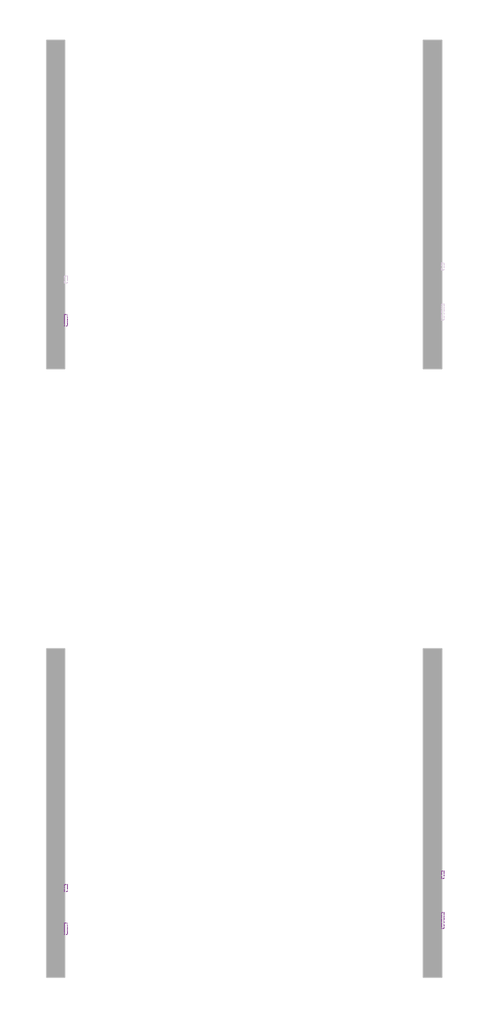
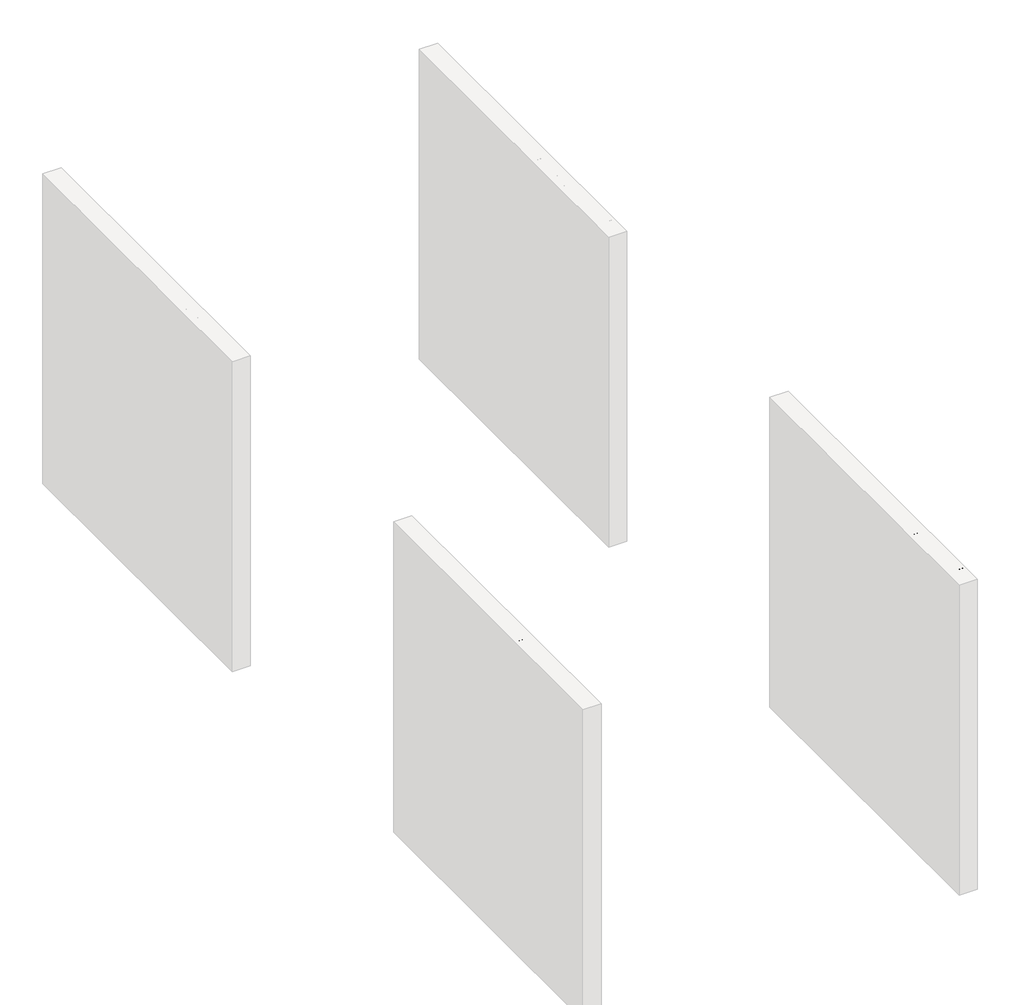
# One storey, part 5 of 7: 5 proxies.
"""IFC4 building model written with IfcOpenShell, lengths in millimetres."""

from ifc_helpers import new_model, si_unit, frame, origin, place, context, project, spatial, polyline, outline, extrude, element, save

model = new_model("IFC4")

# Units and contexts
model_context = context("Model", 3, world=origin())
ifc_project = project(units=[si_unit("LENGTHUNIT", "METRE", prefix="MILLI")], contexts=[model_context])

# Site, building, storey
site = spatial("IfcSite", under=ifc_project)
building = spatial("IfcBuilding", under=site)
storey = spatial("IfcBuildingStorey", under=building, Name="PORTOBELLO - SHOWROOM", Elevation=0.0)

# Proxies
placement = place(None, origin())
element("IfcBuildingElementProxy", 1, Name="10mm Arial", ObjectType="10mm Arial", at=placement, inside=storey, context=model_context, shape_type="SweptSolid", body=[
    extrude(outline(polyline([(999.2437115, 2593.9527041), (1002.5914377, 2616.1666452), (1012.6346161, 2632.972721), (1027.969164, 2643.5493284), (1047.1909982, 2647.0748642), (1060.367305, 2645.4193952), (1072.1824484, 2640.4529883), (1081.992635, 2632.5251313), (1089.1540711, 2621.9853121), (1093.5318669, 2609.3424342), (1094.9911321, 2595.105401), (1093.4552248, 2580.6782954), (1088.8475028, 2567.8576079), (1081.4224179, 2557.2993946), (1071.4344217, 2549.6597119), (1059.7204458, 2545.0243987), (1047.1174218, 2543.4792944), (1033.7387799, 2545.1868799), (1021.8561915, 2550.3096367), (1012.0705304, 2558.3846465), (1004.9826706, 2568.9489912), (999.2437115, 2593.9527041)]), holes=[polyline([(1011.8007503, 2593.8300768), (1014.3115449, 2578.1153842), (1021.8439287, 2566.1408253), (1033.1654971, 2558.5624562), (1047.0438454, 2556.0363331), (1061.1245288, 2558.5869816), (1072.4644913, 2566.2389271), (1079.9416928, 2578.5813681), (1082.4340934, 2595.2035029), (1078.1666622, 2615.9275219), (1065.6954626, 2629.6495204), (1047.2645746, 2634.5178254), (1033.757174, 2632.1725777), (1022.2731244, 2625.1368345), (1014.4188438, 2612.6196497), (1011.8007503, 2593.8300768)])]), frame((47110.9355471, 0.0, 0.0), z_axis=(1.0, 0.0, 0.0), x_axis=(0.0, 1.0, 0.0)), (0.0, 0.0, 1.0), 20.0),
    extrude(outline(polyline([(1154.6370663, 2545.0489242), (1154.6370663, 2606.2644882), (1143.6496573, 2606.2644882), (1143.6496573, 2618.821527), (1154.6370663, 2618.821527), (1154.6370663, 2626.2527433), (1155.9614415, 2636.7251174), (1162.3871136, 2644.2053846), (1175.0422543, 2647.0748642), (1186.4956471, 2645.7014381), (1184.6562371, 2633.9292142), (1177.4212245, 2634.5178254), (1169.5117616, 2632.4331608), (1167.194105, 2624.658588), (1167.194105, 2618.821527), (1181.3207737, 2618.821527), (1181.3207737, 2606.2644882), (1167.194105, 2606.2644882), (1167.194105, 2545.0489242), (1154.6370663, 2545.0489242)])), frame((47110.9355471, 0.0, 0.0), z_axis=(1.0, 0.0, 0.0), x_axis=(0.0, 1.0, 0.0)), (0.0, 0.0, 1.0), 20.0),
    extrude(outline(polyline([(1113.8266903, 2545.0489242), (1113.8266903, 2606.2644882), (1102.8392814, 2606.2644882), (1102.8392814, 2618.821527), (1113.8266903, 2618.821527), (1113.8266903, 2626.2527433), (1115.1510655, 2636.7251174), (1121.5767376, 2644.2053846), (1134.2318783, 2647.0748642), (1145.6852711, 2645.7014381), (1143.8458611, 2633.9292142), (1136.6108485, 2634.5178254), (1128.7013856, 2632.4331608), (1126.383729, 2624.658588), (1126.383729, 2618.821527), (1140.5103977, 2618.821527), (1140.5103977, 2606.2644882), (1126.383729, 2606.2644882), (1126.383729, 2545.0489242), (1113.8266903, 2545.0489242)])), frame((47110.9355471, 0.0, 0.0), z_axis=(1.0, 0.0, 0.0), x_axis=(0.0, 1.0, 0.0)), (0.0, 0.0, 1.0), 20.0),
    extrude(outline(polyline([(1251.0957254, 2545.0489242), (1223.7007795, 2645.5052343), (1236.6502257, 2645.5052343), (1252.5427279, 2579.4826789), (1257.4478212, 2559.1020164), (1262.696271, 2577.1282342), (1282.6109497, 2645.5052343), (1301.2748295, 2645.5052343), (1315.7448547, 2595.9392669), (1326.5115344, 2559.1020164), (1331.2694749, 2578.8940678), (1347.3091299, 2645.5052343), (1360.2585761, 2645.5052343), (1332.8391047, 2545.0489242), (1319.4236746, 2545.0489242), (1295.3396667, 2622.5493978), (1291.9796778, 2633.3651285), (1288.202756, 2620.3421059), (1266.2524636, 2545.0489242), (1251.0957254, 2545.0489242)])), frame((47110.9355471, 0.0, 0.0), z_axis=(1.0, 0.0, 0.0), x_axis=(0.0, 1.0, 0.0)), (0.0, 0.0, 1.0), 20.0),
    extrude(outline(polyline([(1371.245985, 2545.0489242), (1371.245985, 2645.5052343), (1383.8030238, 2645.5052343), (1383.8030238, 2608.569882), (1393.5948162, 2617.4358381), (1405.6552143, 2620.3911568), (1419.7573575, 2617.166058), (1428.3167452, 2608.251051), (1430.8919192, 2591.7454121), (1430.8919192, 2545.0489242), (1418.3348804, 2545.0489242), (1418.3348804, 2590.4455624), (1414.3372294, 2603.6893142), (1403.0064639, 2607.834118), (1392.7180308, 2605.0382149), (1385.8509002, 2597.4598458), (1383.8030238, 2584.2406194), (1383.8030238, 2545.0489242), (1371.245985, 2545.0489242)])), frame((47110.9355471, 0.0, 0.0), z_axis=(1.0, 0.0, 0.0), x_axis=(0.0, 1.0, 0.0)), (0.0, 0.0, 1.0), 20.0),
    extrude(outline(polyline([(47130.9355471, 1460.7148863), (47130.9355471, 1448.1578475), (47110.9355471, 1448.1578475), (47110.9355471, 1460.7148863), (47130.9355471, 1460.7148863)])), frame((0.0, 0.0, 2632.9481956), z_axis=(0.0, 0.0, 1.0), x_axis=(1.0, 0.0, 0.0)), (0.0, 0.0, 1.0), 12.5570388),
    extrude(outline(polyline([(47130.9355471, 1460.7148863), (47130.9355471, 1448.1578475), (47110.9355471, 1448.1578475), (47110.9355471, 1460.7148863), (47130.9355471, 1460.7148863)])), frame((0.0, 0.0, 2545.0489242), z_axis=(0.0, 0.0, 1.0), x_axis=(1.0, 0.0, 0.0)), (0.0, 0.0, 1.0), 73.7726028),
    extrude(outline(polyline([(1506.2341518, 2555.5212983), (1507.8037816, 2544.6810422), (1498.410528, 2543.4792944), (1487.889103, 2545.563959), (1482.6406532, 2551.033138), (1481.1200743, 2565.2824339), (1481.1200743, 2606.2644882), (1471.7022952, 2606.2644882), (1471.7022952, 2618.821527), (1481.1200743, 2618.821527), (1481.1200743, 2636.7496429), (1493.677113, 2644.1318082), (1493.677113, 2618.821527), (1506.2341518, 2618.821527), (1506.2341518, 2606.2644882), (1493.677113, 2606.2644882), (1493.677113, 2565.6503159), (1494.3393006, 2559.1755928), (1496.4852789, 2556.8824617), (1500.7649728, 2556.0363331), (1506.2341518, 2555.5212983)])), frame((47110.9355471, 0.0, 0.0), z_axis=(1.0, 0.0, 0.0), x_axis=(0.0, 1.0, 0.0)), (0.0, 0.0, 1.0), 20.0),
    extrude(outline(polyline([(1570.4418227, 2567.023742), (1582.7536068, 2565.4541122), (1578.3175631, 2556.1773546), (1571.2389003, 2549.2427789), (1561.6770342, 2544.9201655), (1549.79138, 2543.4792944), (1535.0577061, 2545.9655635), (1523.7208093, 2553.424371), (1516.4919281, 2565.3713387), (1514.082301, 2581.3220889), (1516.5164536, 2597.8093337), (1523.8189112, 2610.1395119), (1535.0025238, 2617.8282456), (1549.0801415, 2620.3911568), (1562.7193665, 2617.8343769), (1573.6178706, 2610.1640373), (1580.7639783, 2597.8583846), (1583.1460143, 2581.3956653), (1583.0724379, 2578.011151), (1526.6393398, 2578.011151), (1528.8129092, 2568.611766), (1533.8620896, 2561.7017158), (1541.1492188, 2557.4526788), (1550.0366347, 2556.0363331), (1562.3484188, 2558.660558), (1570.4418227, 2567.023742)]), holes=[polyline([(1526.6393398, 2590.5681897), (1570.5889755, 2590.5681897), (1565.5612549, 2601.9480061), (1558.2404032, 2606.3625901), (1549.0310906, 2607.834118), (1533.567784, 2603.1374912), (1528.7025447, 2597.6468525), (1526.6393398, 2590.5681897)])]), frame((47110.9355471, 0.0, 0.0), z_axis=(1.0, 0.0, 0.0), x_axis=(0.0, 1.0, 0.0)), (0.0, 0.0, 1.0), 20.0),
])
element("IfcBuildingElementProxy", 2, Name="10mm Arial", ObjectType="10mm Arial", at=placement, inside=storey, context=model_context, shape_type="SweptSolid", body=[
    extrude(outline(polyline([(1070.8836529, 2576.2808052), (1083.4406916, 2573.0434437), (1077.6465502, 2558.4109373), (1068.5537336, 2547.7208997), (1056.6098314, 2541.1817972), (1042.2624336, 2539.0020964), (1027.6973723, 2540.651434), (1016.1305492, 2545.5994468), (1007.2645932, 2553.6744566), (1000.8021328, 2564.7047851), (995.5414203, 2591.5601708), (997.0282766, 2606.2080056), (1001.4888458, 2618.8570148), (1008.6901359, 2629.1055941), (1018.3991549, 2636.5521388), (1029.9138613, 2641.0862844), (1042.5322138, 2642.5976662), (1056.3001974, 2640.6417603), (1067.6830795, 2634.7740425), (1076.3252407, 2625.3562634), (1081.8710618, 2612.7501737), (1069.314023, 2609.7580668), (1059.0133272, 2625.1968479), (1042.0417044, 2630.0406275), (1022.3968059, 2624.6695503), (1011.2990324, 2610.2485761), (1008.098459, 2591.5846962), (1011.8876436, 2569.9532349), (1023.6843929, 2556.1331346), (1041.0116349, 2551.5591352), (1051.493206, 2553.1165023), (1060.2273377, 2557.7886036), (1066.8216225, 2565.5263883), (1070.8836529, 2576.2808052)])), frame((44010.9355471, 0.0, 0.0), z_axis=(1.0, 0.0, 0.0), x_axis=(0.0, 1.0, 0.0)), (0.0, 0.0, 1.0), 20.0),
    extrude(outline(polyline([(1150.7876222, 2562.5465441), (1163.0994063, 2560.9769142), (1158.6633626, 2551.7001566), (1151.5846999, 2544.765581), (1142.0228337, 2540.4429675), (1130.1371796, 2539.0020964), (1115.4035056, 2541.4883656), (1104.0666088, 2548.947173), (1096.8377276, 2560.8941408), (1094.4281006, 2576.844891), (1096.8622531, 2593.3321357), (1104.1647107, 2605.6623139), (1115.3483233, 2613.3510476), (1129.425941, 2615.9139589), (1143.065166, 2613.357179), (1153.9636701, 2605.6868394), (1161.1097779, 2593.3811867), (1163.4918138, 2576.9184674), (1163.4182374, 2573.533953), (1106.9851393, 2573.533953), (1109.1587088, 2564.134568), (1114.2078892, 2557.2245179), (1121.4950183, 2552.9754808), (1130.3824342, 2551.5591352), (1142.6942183, 2554.1833601), (1150.7876222, 2562.5465441)]), holes=[polyline([(1106.9851393, 2586.0909918), (1150.934775, 2586.0909918), (1145.9070544, 2597.4708082), (1138.5862027, 2601.8853921), (1129.3768901, 2603.3569201), (1113.9135836, 2598.6602933), (1109.0483442, 2593.1696545), (1106.9851393, 2586.0909918)])]), frame((44010.9355471, 0.0, 0.0), z_axis=(1.0, 0.0, 0.0), x_axis=(0.0, 1.0, 0.0)), (0.0, 0.0, 1.0), 20.0),
    extrude(outline(polyline([(1176.0488526, 2540.5717262), (1176.0488526, 2614.344329), (1188.6058913, 2614.344329), (1188.6058913, 2602.2042232), (1197.2388555, 2612.1492998), (1209.5261141, 2615.9139589), (1222.1076783, 2612.0757234), (1229.0238599, 2601.3213064), (1238.8217837, 2612.2657957), (1251.1948814, 2615.9139589), (1260.6341203, 2614.3964456), (1267.6146811, 2609.8439059), (1271.9280975, 2602.1337125), (1273.365903, 2591.1432378), (1273.365903, 2540.5717262), (1260.8088642, 2540.5717262), (1260.8088642, 2585.7476353), (1259.6439046, 2596.2322721), (1255.4255244, 2601.3948828), (1248.2518255, 2603.3569201), (1235.9032532, 2598.3291995), (1232.2152362, 2591.7870313), (1230.9858972, 2582.2159681), (1230.9858972, 2540.5717262), (1218.4288584, 2540.5717262), (1218.4288584, 2587.1455868), (1215.5225906, 2599.3102181), (1205.994447, 2603.3569201), (1196.6992952, 2600.6591188), (1190.5188777, 2592.7619186), (1188.6058913, 2577.7768587), (1188.6058913, 2540.5717262), (1176.0488526, 2540.5717262)])), frame((44010.9355471, 0.0, 0.0), z_axis=(1.0, 0.0, 0.0), x_axis=(0.0, 1.0, 0.0)), (0.0, 0.0, 1.0), 20.0),
    extrude(outline(polyline([(1343.8520933, 2562.5465441), (1356.1638774, 2560.9769142), (1351.7278337, 2551.7001566), (1344.6491709, 2544.765581), (1335.0873047, 2540.4429675), (1323.2016506, 2539.0020964), (1308.4679767, 2541.4883656), (1297.1310799, 2548.947173), (1289.9021987, 2560.8941408), (1287.4925716, 2576.844891), (1289.9267242, 2593.3321357), (1297.2291818, 2605.6623139), (1308.4127944, 2613.3510476), (1322.4904121, 2615.9139589), (1336.1296371, 2613.357179), (1347.0281412, 2605.6868394), (1354.1742489, 2593.3811867), (1356.5562849, 2576.9184674), (1356.4827085, 2573.533953), (1300.0496104, 2573.533953), (1302.2231798, 2564.134568), (1307.2723602, 2557.2245179), (1314.5594894, 2552.9754808), (1323.4469053, 2551.5591352), (1335.7586894, 2554.1833601), (1343.8520933, 2562.5465441)]), holes=[polyline([(1300.0496104, 2586.0909918), (1343.9992461, 2586.0909918), (1338.9715255, 2597.4708082), (1331.6506738, 2601.8853921), (1322.4413612, 2603.3569201), (1306.9780546, 2598.6602933), (1302.1128152, 2593.1696545), (1300.0496104, 2586.0909918)])]), frame((44010.9355471, 0.0, 0.0), z_axis=(1.0, 0.0, 0.0), x_axis=(0.0, 1.0, 0.0)), (0.0, 0.0, 1.0), 20.0),
    extrude(outline(polyline([(1369.1133236, 2540.5717262), (1369.1133236, 2614.344329), (1381.6703624, 2614.344329), (1381.6703624, 2604.0436331), (1391.2720825, 2612.9463774), (1404.3809442, 2615.9139589), (1416.2390072, 2613.5227259), (1424.3324111, 2607.2442065), (1428.0970702, 2598.0103684), (1428.7592578, 2585.8702626), (1428.7592578, 2540.5717262), (1416.202219, 2540.5717262), (1416.202219, 2584.1780054), (1414.7552165, 2595.2880417), (1409.6416568, 2601.1618909), (1401.0209553, 2603.3569201), (1387.3970588, 2598.4273014), (1383.1020365, 2591.2842593), (1381.6703624, 2579.7143705), (1381.6703624, 2540.5717262), (1369.1133236, 2540.5717262)])), frame((44010.9355471, 0.0, 0.0), z_axis=(1.0, 0.0, 0.0), x_axis=(0.0, 1.0, 0.0)), (0.0, 0.0, 1.0), 20.0),
    extrude(outline(polyline([(1472.7088935, 2551.0441004), (1474.2785233, 2540.2038443), (1464.8852697, 2539.0020964), (1454.3638446, 2541.086761), (1449.1153948, 2546.55594), (1447.5948159, 2560.805236), (1447.5948159, 2601.7872902), (1438.1770368, 2601.7872902), (1438.1770368, 2614.344329), (1447.5948159, 2614.344329), (1447.5948159, 2632.2724449), (1460.1518547, 2639.6546103), (1460.1518547, 2614.344329), (1472.7088935, 2614.344329), (1472.7088935, 2601.7872902), (1460.1518547, 2601.7872902), (1460.1518547, 2561.173118), (1460.8140423, 2554.6983949), (1462.9600206, 2552.4052638), (1467.2397145, 2551.5591352), (1472.7088935, 2551.0441004)])), frame((44010.9355471, 0.0, 0.0), z_axis=(1.0, 0.0, 0.0), x_axis=(0.0, 1.0, 0.0)), (0.0, 0.0, 1.0), 20.0),
])
element("IfcBuildingElementProxy", 3, Name="10mm Arial", ObjectType="10mm Arial", at=placement, inside=storey, context=model_context, shape_type="SweptSolid", body=[
    extrude(outline(polyline([(6070.8836529, 2576.2808052), (6083.4406916, 2573.0434437), (6077.6465502, 2558.4109373), (6068.5537336, 2547.7208997), (6056.6098314, 2541.1817972), (6042.2624336, 2539.0020964), (6027.6973723, 2540.651434), (6016.1305492, 2545.5994468), (6007.2645932, 2553.6744566), (6000.8021328, 2564.7047851), (5995.5414203, 2591.5601708), (5997.0282766, 2606.2080056), (6001.4888458, 2618.8570148), (6008.6901359, 2629.1055941), (6018.3991549, 2636.5521388), (6029.9138613, 2641.0862844), (6042.5322138, 2642.5976662), (6056.3001974, 2640.6417603), (6067.6830795, 2634.7740425), (6076.3252407, 2625.3562634), (6081.8710618, 2612.7501737), (6069.314023, 2609.7580668), (6059.0133272, 2625.1968479), (6042.0417044, 2630.0406275), (6022.3968059, 2624.6695503), (6011.2990324, 2610.2485761), (6008.098459, 2591.5846962), (6011.8876436, 2569.9532349), (6023.6843929, 2556.1331346), (6041.0116349, 2551.5591352), (6051.493206, 2553.1165023), (6060.2273377, 2557.7886036), (6066.8216225, 2565.5263883), (6070.8836529, 2576.2808052)])), frame((44010.9355471, 0.0, 0.0), z_axis=(1.0, 0.0, 0.0), x_axis=(0.0, 1.0, 0.0)), (0.0, 0.0, 1.0), 20.0),
    extrude(outline(polyline([(6150.7876222, 2562.5465441), (6163.0994063, 2560.9769142), (6158.6633626, 2551.7001566), (6151.5846999, 2544.765581), (6142.0228337, 2540.4429675), (6130.1371796, 2539.0020964), (6115.4035056, 2541.4883656), (6104.0666088, 2548.947173), (6096.8377276, 2560.8941408), (6094.4281006, 2576.844891), (6096.8622531, 2593.3321357), (6104.1647107, 2605.6623139), (6115.3483233, 2613.3510476), (6129.425941, 2615.9139589), (6143.065166, 2613.357179), (6153.9636701, 2605.6868394), (6161.1097779, 2593.3811867), (6163.4918138, 2576.9184674), (6163.4182374, 2573.533953), (6106.9851393, 2573.533953), (6109.1587088, 2564.134568), (6114.2078892, 2557.2245179), (6121.4950183, 2552.9754808), (6130.3824342, 2551.5591352), (6142.6942183, 2554.1833601), (6150.7876222, 2562.5465441)]), holes=[polyline([(6106.9851393, 2586.0909918), (6150.934775, 2586.0909918), (6145.9070544, 2597.4708082), (6138.5862027, 2601.8853921), (6129.3768901, 2603.3569201), (6113.9135836, 2598.6602933), (6109.0483442, 2593.1696545), (6106.9851393, 2586.0909918)])]), frame((44010.9355471, 0.0, 0.0), z_axis=(1.0, 0.0, 0.0), x_axis=(0.0, 1.0, 0.0)), (0.0, 0.0, 1.0), 20.0),
    extrude(outline(polyline([(6176.0488526, 2540.5717262), (6176.0488526, 2614.344329), (6188.6058913, 2614.344329), (6188.6058913, 2602.2042232), (6197.2388555, 2612.1492998), (6209.5261141, 2615.9139589), (6222.1076783, 2612.0757234), (6229.0238599, 2601.3213064), (6238.8217837, 2612.2657957), (6251.1948814, 2615.9139589), (6260.6341203, 2614.3964456), (6267.6146811, 2609.8439059), (6271.9280975, 2602.1337125), (6273.365903, 2591.1432378), (6273.365903, 2540.5717262), (6260.8088642, 2540.5717262), (6260.8088642, 2585.7476353), (6259.6439046, 2596.2322721), (6255.4255244, 2601.3948828), (6248.2518255, 2603.3569201), (6235.9032532, 2598.3291995), (6232.2152362, 2591.7870313), (6230.9858972, 2582.2159681), (6230.9858972, 2540.5717262), (6218.4288584, 2540.5717262), (6218.4288584, 2587.1455868), (6215.5225906, 2599.3102181), (6205.994447, 2603.3569201), (6196.6992952, 2600.6591188), (6190.5188777, 2592.7619186), (6188.6058913, 2577.7768587), (6188.6058913, 2540.5717262), (6176.0488526, 2540.5717262)])), frame((44010.9355471, 0.0, 0.0), z_axis=(1.0, 0.0, 0.0), x_axis=(0.0, 1.0, 0.0)), (0.0, 0.0, 1.0), 20.0),
    extrude(outline(polyline([(6343.8520933, 2562.5465441), (6356.1638774, 2560.9769142), (6351.7278337, 2551.7001566), (6344.6491709, 2544.765581), (6335.0873047, 2540.4429675), (6323.2016506, 2539.0020964), (6308.4679767, 2541.4883656), (6297.1310799, 2548.947173), (6289.9021987, 2560.8941408), (6287.4925716, 2576.844891), (6289.9267242, 2593.3321357), (6297.2291818, 2605.6623139), (6308.4127944, 2613.3510476), (6322.4904121, 2615.9139589), (6336.1296371, 2613.357179), (6347.0281412, 2605.6868394), (6354.1742489, 2593.3811867), (6356.5562849, 2576.9184674), (6356.4827085, 2573.533953), (6300.0496104, 2573.533953), (6302.2231798, 2564.134568), (6307.2723602, 2557.2245179), (6314.5594894, 2552.9754808), (6323.4469053, 2551.5591352), (6335.7586894, 2554.1833601), (6343.8520933, 2562.5465441)]), holes=[polyline([(6300.0496104, 2586.0909918), (6343.9992461, 2586.0909918), (6338.9715255, 2597.4708082), (6331.6506738, 2601.8853921), (6322.4413612, 2603.3569201), (6306.9780546, 2598.6602933), (6302.1128152, 2593.1696545), (6300.0496104, 2586.0909918)])]), frame((44010.9355471, 0.0, 0.0), z_axis=(1.0, 0.0, 0.0), x_axis=(0.0, 1.0, 0.0)), (0.0, 0.0, 1.0), 20.0),
    extrude(outline(polyline([(6369.1133236, 2540.5717262), (6369.1133236, 2614.344329), (6381.6703624, 2614.344329), (6381.6703624, 2604.0436331), (6391.2720825, 2612.9463774), (6404.3809442, 2615.9139589), (6416.2390072, 2613.5227259), (6424.3324111, 2607.2442065), (6428.0970702, 2598.0103684), (6428.7592578, 2585.8702626), (6428.7592578, 2540.5717262), (6416.202219, 2540.5717262), (6416.202219, 2584.1780054), (6414.7552165, 2595.2880417), (6409.6416568, 2601.1618909), (6401.0209553, 2603.3569201), (6387.3970588, 2598.4273014), (6383.1020365, 2591.2842593), (6381.6703624, 2579.7143705), (6381.6703624, 2540.5717262), (6369.1133236, 2540.5717262)])), frame((44010.9355471, 0.0, 0.0), z_axis=(1.0, 0.0, 0.0), x_axis=(0.0, 1.0, 0.0)), (0.0, 0.0, 1.0), 20.0),
    extrude(outline(polyline([(6472.7088935, 2551.0441004), (6474.2785233, 2540.2038443), (6464.8852697, 2539.0020964), (6454.3638446, 2541.086761), (6449.1153948, 2546.55594), (6447.5948159, 2560.805236), (6447.5948159, 2601.7872902), (6438.1770368, 2601.7872902), (6438.1770368, 2614.344329), (6447.5948159, 2614.344329), (6447.5948159, 2632.2724449), (6460.1518547, 2639.6546103), (6460.1518547, 2614.344329), (6472.7088935, 2614.344329), (6472.7088935, 2601.7872902), (6460.1518547, 2601.7872902), (6460.1518547, 2561.173118), (6460.8140423, 2554.6983949), (6462.9600206, 2552.4052638), (6467.2397145, 2551.5591352), (6472.7088935, 2551.0441004)])), frame((44010.9355471, 0.0, 0.0), z_axis=(1.0, 0.0, 0.0), x_axis=(0.0, 1.0, 0.0)), (0.0, 0.0, 1.0), 20.0),
])
element("IfcBuildingElementProxy", 4, Name="10mm Arial Narrow", ObjectType="10mm Arial Narrow", at=placement, inside=storey, context=model_context, shape_type="SweptSolid", body=[
    extrude(outline(polyline([(1636.0876602, 2545.0489242), (1636.0876602, 2645.767528), (1667.3845449, 2645.767528), (1683.6802464, 2643.8892072), (1695.1532325, 2634.408764), (1699.4429109, 2617.3896552), (1697.6566025, 2605.3138297), (1692.2976773, 2595.6874359), (1682.5538885, 2589.3861775), (1667.6129893, 2587.285758), (1645.8346218, 2587.285758), (1645.8346218, 2545.0489242), (1636.0876602, 2545.0489242)]), holes=[polyline([(1645.8346218, 2598.6572133), (1668.8059768, 2598.6572133), (1684.6701722, 2603.1880275), (1689.6959493, 2616.8566183), (1687.2211348, 2627.0223947), (1681.243506, 2632.8223445), (1668.5775323, 2634.3960727), (1645.8346218, 2634.3960727), (1645.8346218, 2598.6572133)])]), frame((47110.9355471, 0.0, 0.0), z_axis=(1.0, 0.0, 0.0), x_axis=(0.0, 1.0, 0.0)), (0.0, 0.0, 1.0), 20.0),
    extrude(outline(polyline([(1707.565379, 2581.6000304), (1709.5198478, 2598.1908059), (1715.3832545, 2610.1428908), (1724.2418212, 2617.3674453), (1735.1817703, 2619.7756302), (1745.9948059, 2617.3674453), (1754.8787553, 2610.1428908), (1760.8183101, 2598.3811763), (1762.7981617, 2582.3615118), (1760.8532113, 2565.1996252), (1755.0183602, 2553.05717), (1746.169312, 2545.8326155), (1735.1817703, 2543.4244306), (1724.3211421, 2545.8389611), (1715.4467112, 2553.0825527), (1709.535712, 2565.0409832), (1707.565379, 2581.6000304)]), holes=[polyline([(1717.3123406, 2581.6254131), (1718.6163775, 2569.0736617), (1722.5284881, 2560.2024036), (1728.3696848, 2554.9291451), (1735.4609802, 2553.1713922), (1742.1810533, 2554.9450093), (1747.8731266, 2560.2658604), (1751.7566817, 2569.1529827), (1753.0512, 2581.6254131), (1751.7471631, 2594.1390904), (1747.8350526, 2602.9976572), (1741.9938558, 2608.2709157), (1734.9025605, 2610.0286686), (1728.1348947, 2608.2613972), (1722.4523399, 2602.9595831), (1718.5973404, 2594.0914979), (1717.3123406, 2581.6254131)])]), frame((47110.9355471, 0.0, 0.0), z_axis=(1.0, 0.0, 0.0), x_axis=(0.0, 1.0, 0.0)), (0.0, 0.0, 1.0), 20.0),
    extrude(outline(polyline([(1834.2758805, 2553.1713922), (1835.9003741, 2543.4244306), (1828.5393874, 2543.4244306), (1820.2646231, 2545.5438871), (1815.9495619, 2551.3438369), (1814.7819571, 2565.9896621), (1814.7819571, 2608.4041749), (1806.6594891, 2608.4041749), (1806.6594891, 2611.6531622), (1805.0349955, 2606.7796813), (1797.4709471, 2608.4041749), (1791.3917875, 2606.0816567), (1787.5209238, 2599.5963737), (1785.5410722, 2584.1890671), (1785.5410722, 2545.0489242), (1775.7941105, 2545.0489242), (1775.7941105, 2618.1511366), (1785.5410722, 2618.1511366), (1785.5410722, 2608.4549404), (1791.7852195, 2617.5419515), (1798.1816631, 2619.7756302), (1806.6594891, 2618.1511366), (1814.7819571, 2618.1511366), (1814.7819571, 2634.3960727), (1824.5289188, 2642.5185407), (1824.5289188, 2618.1511366), (1834.2758805, 2618.1511366), (1834.2758805, 2608.4041749), (1824.5289188, 2608.4041749), (1824.5289188, 2563.7559834), (1825.391931, 2555.7604289), (1830.0115847, 2553.1713922), (1834.2758805, 2553.1713922)])), frame((47110.9355471, 0.0, 0.0), z_axis=(1.0, 0.0, 0.0), x_axis=(0.0, 1.0, 0.0)), (0.0, 0.0, 1.0), 20.0),
    extrude(outline(polyline([(1840.7738549, 2581.6000304), (1842.7283238, 2598.1908059), (1848.5917304, 2610.1428908), (1857.4502971, 2617.3674453), (1868.3902462, 2619.7756302), (1879.2032818, 2617.3674453), (1888.0872313, 2610.1428908), (1894.026786, 2598.3811763), (1896.0066376, 2582.3615118), (1894.0616872, 2565.1996252), (1888.2268362, 2553.05717), (1879.377788, 2545.8326155), (1868.3902462, 2543.4244306), (1857.5296181, 2545.8389611), (1848.6551872, 2553.0825527), (1842.744188, 2565.0409832), (1840.7738549, 2581.6000304)]), holes=[polyline([(1850.5208165, 2581.6254131), (1851.8248534, 2569.0736617), (1855.736964, 2560.2024036), (1861.5781607, 2554.9291451), (1868.6694561, 2553.1713922), (1875.3895293, 2554.9450093), (1881.0816026, 2560.2658604), (1884.9651576, 2569.1529827), (1886.2596759, 2581.6254131), (1884.9556391, 2594.1390904), (1881.0435285, 2602.9976572), (1875.2023317, 2608.2709157), (1868.1110364, 2610.0286686), (1861.3433706, 2608.2613972), (1855.6608159, 2602.9595831), (1851.8058164, 2594.0914979), (1850.5208165, 2581.6254131)])]), frame((47110.9355471, 0.0, 0.0), z_axis=(1.0, 0.0, 0.0), x_axis=(0.0, 1.0, 0.0)), (0.0, 0.0, 1.0), 20.0),
    extrude(outline(polyline([(1918.7495481, 2545.0489242), (1909.0025865, 2545.0489242), (1909.0025865, 2645.767528), (1918.7495481, 2645.767528), (1918.7495481, 2610.3586438), (1926.1486089, 2617.4404206), (1935.3498422, 2619.7756302), (1948.2315689, 2615.5747913), (1957.5089503, 2602.8453609), (1960.986382, 2582.1584501), (1959.054123, 2565.7041066), (1953.257346, 2553.5013675), (1944.8842236, 2545.9436648), (1935.2229286, 2543.4244306), (1925.8820904, 2546.03885), (1918.7495481, 2553.8059601), (1918.7495481, 2545.0489242)]), holes=[polyline([(1918.7495481, 2582.1584501), (1920.8309306, 2564.9108968), (1926.7197199, 2556.1792437), (1935.1721632, 2553.1713922), (1941.1148908, 2554.9608735), (1946.3532481, 2560.3293172), (1951.2394203, 2581.7523267), (1946.5309271, 2603.1880275), (1941.2862241, 2608.3185083), (1934.9691015, 2610.0286686), (1928.9914727, 2608.2391873), (1923.6991771, 2602.8707436), (1918.7495481, 2582.1584501)])]), frame((47110.9355471, 0.0, 0.0), z_axis=(1.0, 0.0, 0.0), x_axis=(0.0, 1.0, 0.0)), (0.0, 0.0, 1.0), 20.0),
    extrude(outline(polyline([(2012.9701774, 2567.7918347), (2022.7171391, 2566.1673411), (2019.0176087, 2556.2807745), (2013.1986219, 2549.1609236), (2005.4949686, 2544.8585539), (1996.141439, 2543.4244306), (1984.547885, 2545.8389611), (1975.4037627, 2553.0825527), (1969.464208, 2564.888687), (1967.4843564, 2580.9908453), (1969.4737265, 2597.657769), (1975.4418368, 2609.8382982), (1984.4558726, 2617.2912972), (1995.5830193, 2619.7756302), (2006.2659685, 2617.3769639), (2015.0134858, 2610.1809648), (2020.8483369, 2598.4414602), (2022.7932872, 2582.4122772), (2022.7171391, 2579.16329), (1977.231318, 2579.16329), (1983.2343296, 2559.7201321), (1989.1643658, 2554.8085772), (1996.2683525, 2553.1713922), (2006.4468203, 2556.8265029), (2012.9701774, 2567.7918347)]), holes=[polyline([(1977.8912686, 2588.9102516), (2012.9701774, 2588.9102516), (2008.7058817, 2603.1753361), (2002.8805492, 2608.3153355), (1995.6591674, 2610.0286686), (1983.4500826, 2604.3175582), (1977.8912686, 2588.9102516)])]), frame((47110.9355471, 0.0, 0.0), z_axis=(1.0, 0.0, 0.0), x_axis=(0.0, 1.0, 0.0)), (0.0, 0.0, 1.0), 20.0),
    extrude(outline(polyline([(47130.9355471, 2045.4600496), (47130.9355471, 2035.713088), (47110.9355471, 2035.713088), (47110.9355471, 2045.4600496), (47130.9355471, 2045.4600496)])), frame((0.0, 0.0, 2545.0489242), z_axis=(0.0, 0.0, 1.0), x_axis=(1.0, 0.0, 0.0)), (0.0, 0.0, 1.0), 100.7186038),
    extrude(outline(polyline([(47130.9355471, 2071.4519474), (47130.9355471, 2061.7049857), (47110.9355471, 2061.7049857), (47110.9355471, 2071.4519474), (47130.9355471, 2071.4519474)])), frame((0.0, 0.0, 2545.0489242), z_axis=(0.0, 0.0, 1.0), x_axis=(1.0, 0.0, 0.0)), (0.0, 0.0, 1.0), 100.7186038),
    extrude(outline(polyline([(2082.8234026, 2581.6000304), (2084.7778715, 2598.1908059), (2090.6412781, 2610.1428908), (2099.4998448, 2617.3674453), (2110.439794, 2619.7756302), (2121.2528296, 2617.3674453), (2130.136779, 2610.1428908), (2136.0763337, 2598.3811763), (2138.0561853, 2582.3615118), (2136.111235, 2565.1996252), (2130.2763839, 2553.05717), (2121.4273357, 2545.8326155), (2110.439794, 2543.4244306), (2099.5791658, 2545.8389611), (2090.7047349, 2553.0825527), (2084.7937357, 2565.0409832), (2082.8234026, 2581.6000304)]), holes=[polyline([(2092.5703643, 2581.6254131), (2093.8744011, 2569.0736617), (2097.7865117, 2560.2024036), (2103.6277085, 2554.9291451), (2110.7190038, 2553.1713922), (2117.439077, 2554.9450093), (2123.1311503, 2560.2658604), (2127.0147053, 2569.1529827), (2128.3092237, 2581.6254131), (2127.0051868, 2594.1390904), (2123.0930762, 2602.9976572), (2117.2518795, 2608.2709157), (2110.1605841, 2610.0286686), (2103.3929184, 2608.2613972), (2097.7103636, 2602.9595831), (2093.8553641, 2594.0914979), (2092.5703643, 2581.6254131)])]), frame((47110.9355471, 0.0, 0.0), z_axis=(1.0, 0.0, 0.0), x_axis=(0.0, 1.0, 0.0)), (0.0, 0.0, 1.0), 20.0),
])
element("IfcBuildingElementProxy", 5, Name="10mm Arial Narrow", ObjectType="10mm Arial Narrow", at=placement, inside=storey, context=model_context, shape_type="SweptSolid", body=[
    extrude(outline(polyline([(1527.3853689, 2540.5717262), (1527.3853689, 2641.29033), (1558.6822536, 2641.29033), (1574.9779551, 2639.4120093), (1586.4509412, 2629.9315661), (1590.7406197, 2612.9124573), (1588.9543113, 2600.8366317), (1583.5953861, 2591.210238), (1573.8515972, 2584.9089795), (1558.910698, 2582.8085601), (1537.1323306, 2582.8085601), (1537.1323306, 2540.5717262), (1527.3853689, 2540.5717262)]), holes=[polyline([(1537.1323306, 2594.1800153), (1560.1036855, 2594.1800153), (1575.9678809, 2598.7108295), (1580.993658, 2612.3794203), (1578.5188435, 2622.5451967), (1572.5412147, 2628.3451466), (1559.8752411, 2629.9188747), (1537.1323306, 2629.9188747), (1537.1323306, 2594.1800153)])]), frame((44010.9355471, 0.0, 0.0), z_axis=(1.0, 0.0, 0.0), x_axis=(0.0, 1.0, 0.0)), (0.0, 0.0, 1.0), 20.0),
    extrude(outline(polyline([(1598.8630877, 2577.1228324), (1600.8175566, 2593.713608), (1606.6809632, 2605.6656928), (1615.5395299, 2612.8902474), (1626.4794791, 2615.2984323), (1637.2925146, 2612.8902474), (1646.1764641, 2605.6656928), (1652.1160188, 2593.9039783), (1654.0958704, 2577.8843138), (1652.1509201, 2560.7224272), (1646.316069, 2548.5799721), (1637.4670208, 2541.3554175), (1626.4794791, 2538.9472326), (1615.6188509, 2541.3617632), (1606.74442, 2548.6053548), (1600.8334208, 2560.5637853), (1598.8630877, 2577.1228324)]), holes=[polyline([(1608.6100494, 2577.1482152), (1609.9140862, 2564.5964638), (1613.8261968, 2555.7252057), (1619.6673935, 2550.4519471), (1626.7586889, 2548.6941943), (1633.4787621, 2550.4678113), (1639.1708354, 2555.7886625), (1643.0543904, 2564.6757847), (1644.3489088, 2577.1482152), (1643.0448719, 2589.6618925), (1639.1327613, 2598.5204592), (1633.2915646, 2603.7937178), (1626.2002692, 2605.5514706), (1619.4326035, 2603.7841992), (1613.7500487, 2598.4823851), (1609.8950492, 2589.6142999), (1608.6100494, 2577.1482152)])]), frame((44010.9355471, 0.0, 0.0), z_axis=(1.0, 0.0, 0.0), x_axis=(0.0, 1.0, 0.0)), (0.0, 0.0, 1.0), 20.0),
    extrude(outline(polyline([(1725.5735892, 2548.6941943), (1727.1980828, 2538.9472326), (1719.8370961, 2538.9472326), (1711.5623318, 2541.0666891), (1707.2472707, 2546.866639), (1706.0796659, 2561.5124642), (1706.0796659, 2603.926977), (1697.9571978, 2603.926977), (1697.9571978, 2607.1759642), (1696.3327042, 2602.3024834), (1688.7686559, 2603.926977), (1682.6894962, 2601.6044588), (1678.8186325, 2595.1191757), (1676.8387809, 2579.7118691), (1676.8387809, 2540.5717262), (1667.0918193, 2540.5717262), (1667.0918193, 2613.6739386), (1676.8387809, 2613.6739386), (1676.8387809, 2603.9777424), (1683.0829282, 2613.0647535), (1689.4793718, 2615.2984323), (1697.9571978, 2613.6739386), (1706.0796659, 2613.6739386), (1706.0796659, 2629.9188747), (1715.8266275, 2638.0413428), (1715.8266275, 2613.6739386), (1725.5735892, 2613.6739386), (1725.5735892, 2603.926977), (1715.8266275, 2603.926977), (1715.8266275, 2559.2787855), (1716.6896398, 2551.283231), (1721.3092935, 2548.6941943), (1725.5735892, 2548.6941943)])), frame((44010.9355471, 0.0, 0.0), z_axis=(1.0, 0.0, 0.0), x_axis=(0.0, 1.0, 0.0)), (0.0, 0.0, 1.0), 20.0),
    extrude(outline(polyline([(1732.0715636, 2577.1228324), (1734.0260325, 2593.713608), (1739.8894391, 2605.6656928), (1748.7480058, 2612.8902474), (1759.687955, 2615.2984323), (1770.5009906, 2612.8902474), (1779.38494, 2605.6656928), (1785.3244948, 2593.9039783), (1787.3043463, 2577.8843138), (1785.359396, 2560.7224272), (1779.5245449, 2548.5799721), (1770.6754967, 2541.3554175), (1759.687955, 2538.9472326), (1748.8273268, 2541.3617632), (1739.9528959, 2548.6053548), (1734.0418967, 2560.5637853), (1732.0715636, 2577.1228324)]), holes=[polyline([(1741.8185253, 2577.1482152), (1743.1225621, 2564.5964638), (1747.0346727, 2555.7252057), (1752.8758695, 2550.4519471), (1759.9671648, 2548.6941943), (1766.687238, 2550.4678113), (1772.3793113, 2555.7886625), (1776.2628663, 2564.6757847), (1777.5573847, 2577.1482152), (1776.2533478, 2589.6618925), (1772.3412372, 2598.5204592), (1766.5000405, 2603.7937178), (1759.4087451, 2605.5514706), (1752.6410794, 2603.7841992), (1746.9585246, 2598.4823851), (1743.1035251, 2589.6142999), (1741.8185253, 2577.1482152)])]), frame((44010.9355471, 0.0, 0.0), z_axis=(1.0, 0.0, 0.0), x_axis=(0.0, 1.0, 0.0)), (0.0, 0.0, 1.0), 20.0),
    extrude(outline(polyline([(1810.0472569, 2540.5717262), (1800.3002952, 2540.5717262), (1800.3002952, 2641.29033), (1810.0472569, 2641.29033), (1810.0472569, 2605.8814459), (1817.4463176, 2612.9632227), (1826.6475509, 2615.2984323), (1839.5292776, 2611.0975933), (1848.8066591, 2598.3681629), (1852.2840907, 2577.6812521), (1850.3518317, 2561.2269087), (1844.5550547, 2549.0241696), (1836.1819324, 2541.4664669), (1826.5206374, 2538.9472326), (1817.1797991, 2541.561652), (1810.0472569, 2549.3287621), (1810.0472569, 2540.5717262)]), holes=[polyline([(1810.0472569, 2577.6812521), (1812.1286393, 2560.4336989), (1818.0174286, 2551.7020457), (1826.4698719, 2548.6941943), (1832.4125995, 2550.4836755), (1837.6509569, 2555.8521193), (1842.537129, 2577.2751287), (1837.8286358, 2598.7108295), (1832.5839328, 2603.8413103), (1826.2668102, 2605.5514706), (1820.2891814, 2603.7619894), (1814.9968858, 2598.3935456), (1810.0472569, 2577.6812521)])]), frame((44010.9355471, 0.0, 0.0), z_axis=(1.0, 0.0, 0.0), x_axis=(0.0, 1.0, 0.0)), (0.0, 0.0, 1.0), 20.0),
    extrude(outline(polyline([(1904.2678862, 2563.3146368), (1914.0148478, 2561.6901432), (1910.3153175, 2551.8035766), (1904.4963306, 2544.6837257), (1896.7926773, 2540.3813559), (1887.4391477, 2538.9472326), (1875.8455937, 2541.3617632), (1866.7014715, 2548.6053548), (1860.7619167, 2560.411489), (1858.7820651, 2576.5136473), (1860.7714352, 2593.180571), (1866.7395455, 2605.3611003), (1875.7535814, 2612.8140993), (1886.880728, 2615.2984323), (1897.5636772, 2612.8997659), (1906.3111945, 2605.7037669), (1912.1460456, 2593.9642623), (1914.090996, 2577.9350793), (1914.0148478, 2574.686092), (1868.5290268, 2574.686092), (1874.5320383, 2555.2429342), (1880.4620746, 2550.3313793), (1887.5660613, 2548.6941943), (1897.744529, 2552.3493049), (1904.2678862, 2563.3146368)]), holes=[polyline([(1869.1889773, 2584.4330537), (1904.2678862, 2584.4330537), (1900.0035905, 2598.6981382), (1894.1782579, 2603.8381375), (1886.9568762, 2605.5514706), (1874.7477914, 2599.8403603), (1869.1889773, 2584.4330537)])]), frame((44010.9355471, 0.0, 0.0), z_axis=(1.0, 0.0, 0.0), x_axis=(0.0, 1.0, 0.0)), (0.0, 0.0, 1.0), 20.0),
    extrude(outline(polyline([(44030.9355471, 1936.7577584), (44030.9355471, 1927.0107967), (44010.9355471, 1927.0107967), (44010.9355471, 1936.7577584), (44030.9355471, 1936.7577584)])), frame((0.0, 0.0, 2540.5717262), z_axis=(0.0, 0.0, 1.0), x_axis=(1.0, 0.0, 0.0)), (0.0, 0.0, 1.0), 100.7186038),
    extrude(outline(polyline([(44030.9355471, 1962.7496561), (44030.9355471, 1953.0026944), (44010.9355471, 1953.0026944), (44010.9355471, 1962.7496561), (44030.9355471, 1962.7496561)])), frame((0.0, 0.0, 2540.5717262), z_axis=(0.0, 0.0, 1.0), x_axis=(1.0, 0.0, 0.0)), (0.0, 0.0, 1.0), 100.7186038),
    extrude(outline(polyline([(1974.1211114, 2577.1228324), (1976.0755802, 2593.713608), (1981.9389869, 2605.6656928), (1990.7975536, 2612.8902474), (2001.7375027, 2615.2984323), (2012.5505383, 2612.8902474), (2021.4344877, 2605.6656928), (2027.3740425, 2593.9039783), (2029.3538941, 2577.8843138), (2027.4089437, 2560.7224272), (2021.5740926, 2548.5799721), (2012.7250444, 2541.3554175), (2001.7375027, 2538.9472326), (1990.8768745, 2541.3617632), (1982.0024436, 2548.6053548), (1976.0914444, 2560.5637853), (1974.1211114, 2577.1228324)]), holes=[polyline([(1983.868073, 2577.1482152), (1985.1721099, 2564.5964638), (1989.0842205, 2555.7252057), (1994.9254172, 2550.4519471), (2002.0167126, 2548.6941943), (2008.7367857, 2550.4678113), (2014.428859, 2555.7886625), (2018.3124141, 2564.6757847), (2019.6069324, 2577.1482152), (2018.3028956, 2589.6618925), (2014.390785, 2598.5204592), (2008.5495882, 2603.7937178), (2001.4582929, 2605.5514706), (1994.6906271, 2603.7841992), (1989.0080723, 2598.4823851), (1985.1530728, 2589.6142999), (1983.868073, 2577.1482152)])]), frame((44010.9355471, 0.0, 0.0), z_axis=(1.0, 0.0, 0.0), x_axis=(0.0, 1.0, 0.0)), (0.0, 0.0, 1.0), 20.0),
])

save(model, "model.ifc")
